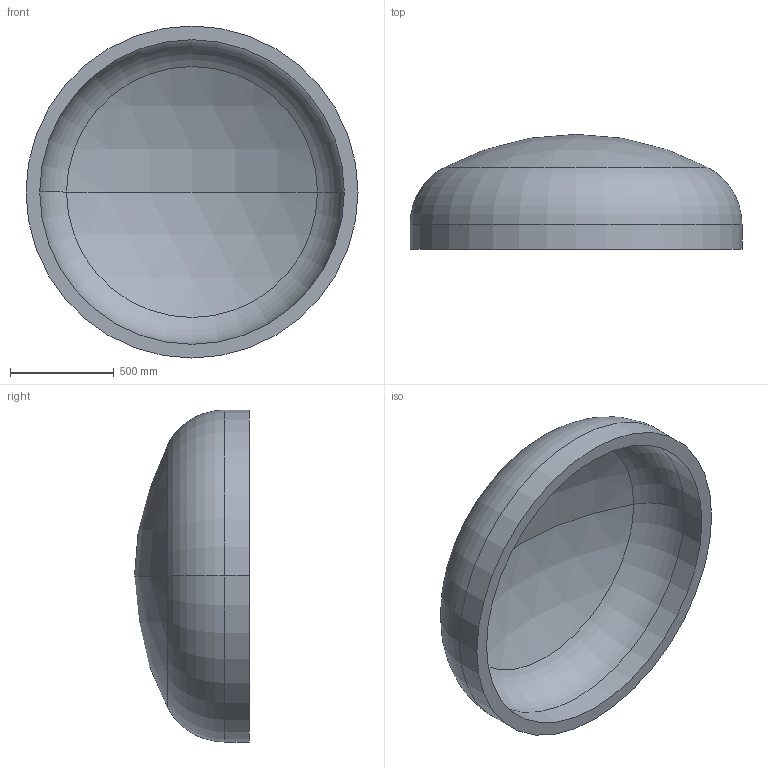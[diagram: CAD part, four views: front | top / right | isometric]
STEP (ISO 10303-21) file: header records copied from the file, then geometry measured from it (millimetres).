
FILE_DESCRIPTION (( 'STEP AP203' ), '1' );
FILE_NAME ('DIN 28013 Korbbogenform_-_Boden DIN 28013 - 1600 x 120 - I - s=66.step', '2016-07-01T11:22:56', ( '' ), ( '' ), 'SwSTEP 2.0', 'SolidWorks 2013', '' );
FILE_SCHEMA (( 'CONFIG_CONTROL_DESIGN' ));
Length unit declared in the file: millimetre
Products named in the file (1): DIN 28013 Korbbogenform_-_Boden DIN 28013 - 1600 x 120 - I - s=66
Bounding box: 1600 x 553.8 x 1600 mm (x, y, z)
Volume: 212200367.9 mm3; surface area: 6757503 mm2
Topology: 1 solids, 1 shells, 13 faces, 24 edges, 14 vertices
Faces by surface type: torus 4, cylinder 4, sphere 4, plane 1
Entity records: 407 total; most frequent: DIRECTION 72, CARTESIAN_POINT 52, ORIENTED_EDGE 48, AXIS2_PLACEMENT_3D 34, EDGE_CURVE 24, CIRCLE 20, EDGE_LOOP 14, VERTEX_POINT 14
